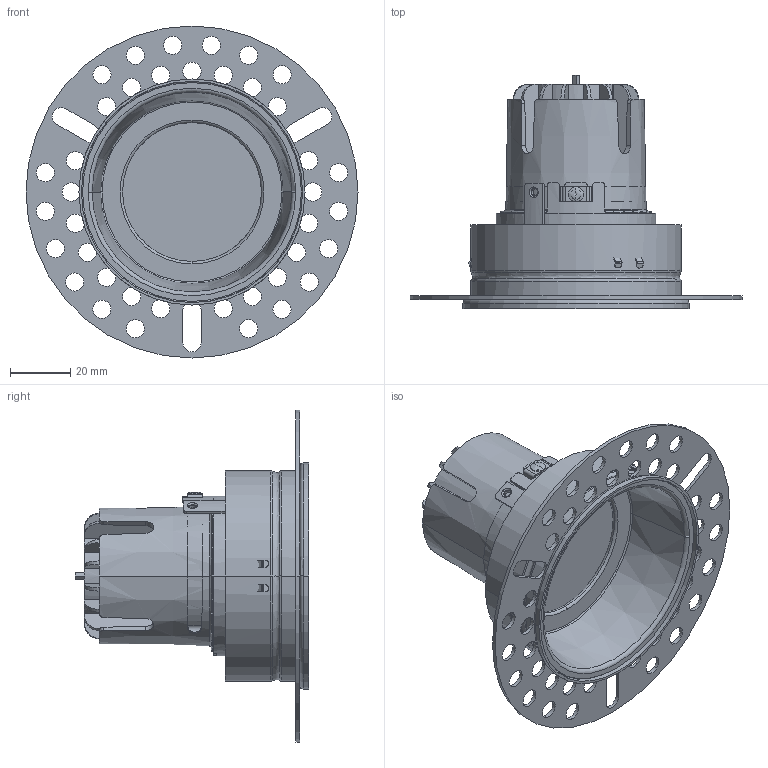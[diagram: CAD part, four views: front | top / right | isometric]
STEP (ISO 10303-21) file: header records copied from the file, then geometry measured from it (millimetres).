
FILE_DESCRIPTION((''),'2;1');
FILE_NAME('TC44011_ASM_10_ASM','2024-10-21T',('Administrator'),(''),'PRO/ENGINEER BY PARAMETRIC TECHNOLOGY CORPORATION, 2010280','PRO/ENGINEER BY PARAMETRIC TECHNOLOGY CORPORATION, 2010280','');
FILE_SCHEMA(('AUTOMOTIVE_DESIGN { 1 0 10303 214 1 1 1 1 }'));
Length unit declared in the file: millimetre
Products named in the file (19): W0632-2_7_2; W0632-1_7_1; W0635_7_5; F0128_7_1; W0201_7_1; MAODING_1_7_1; W0475-TH_3; DIXIANPIAN_4; Y1049_21; P12YXB_3; SJ0674_20; M3X6YT_1; P0722_3; GYB3C2B_1; M2-5_3; KF4414_2; FGZHI_1; TC34077_ASM_27_ASM; TC44011_ASM_10_ASM
Assembly tree (22 placements, depth 3):
  TC44011_ASM_10_ASM
    W0632-2_7_2
    W0632-1_7_1
    W0635_7_5
    F0128_7_1
    W0201_7_1
    MAODING_1_7_1
    W0475-TH_3  x3
    DIXIANPIAN_4
    TC34077_ASM_27_ASM
      Y1049_21
      P12YXB_3
      SJ0674_20
      M3X6YT_1  x2
      P0722_3
      GYB3C2B_1
      M2-5_3  x2
      KF4414_2
      FGZHI_1
Bounding box: 110 x 77.3 x 110 mm (x, y, z)
Volume: 62865.2 mm3; surface area: 84227.1 mm2
Topology: 21 solids, 23 shells, 1218 faces, 3353 edges, 2237 vertices
Faces by surface type: plane 619, cylinder 360, cone 114, torus 90, bspline 26, sphere 5, revolution 4
Entity records: 40578 total; most frequent: CARTESIAN_POINT 9707, DIRECTION 5950, ORIENTED_EDGE 5870, EDGE_CURVE 2938, AXIS2_PLACEMENT_3D 2287, VERTEX_POINT 1961, VECTOR 1372, LINE 1372
